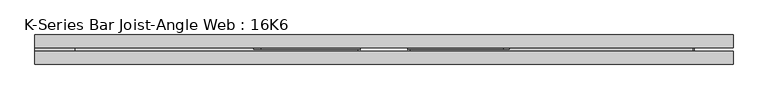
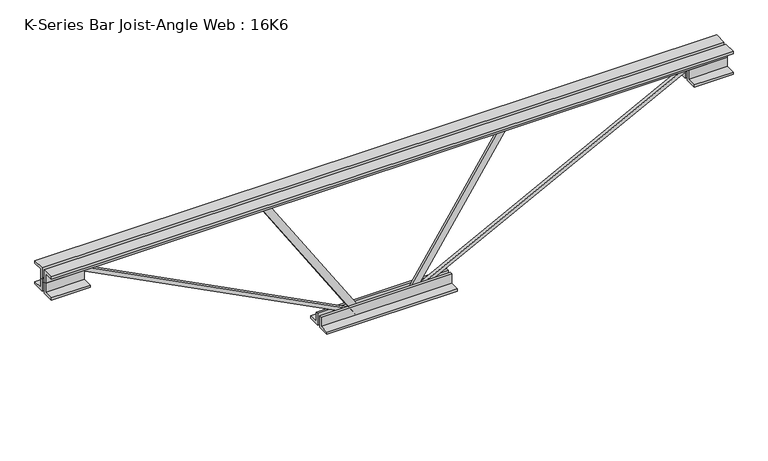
"""IFC4 building model written with IfcOpenShell, lengths in millimetres: beam geometry, K-Series Bar Joist-Angle Web : 16K6."""

import ifcopenshell
import ifcopenshell.guid

model = None  # the IFC model being written
_history = None  # IfcOwnerHistory: only IFC2X3 demands one
_inside = {}  # id of a spatial element -> (the spatial element, [elements in it])
_under = {}  # id of a project, library or spatial element -> (it, [spatial elements below it])
_declared = {}  # id of a project -> (the project, [libraries it declares])
_typed = {}  # id of a type object -> (the type object, [elements of that type])
_made_of = {}  # id of a material, layer set ... -> (it, [elements and type objects made of it])


def new_model(schema):
    """Start an empty IFC model of exactly this schema.

    Asked for "IFC4X3", IfcOpenShell would pick the latest addendum, in which some entities
    have other attributes; the version numbers below select the first issue.
    IFC2X3 requires an IfcOwnerHistory on every rooted entity: one is made here for all.
    """
    global model, _history
    if schema == "IFC4X3":
        model = ifcopenshell.file(schema_version=(4, 3, 0, 0))
    else:
        model = ifcopenshell.file(schema=schema)
    _inside.clear()
    _under.clear()
    _declared.clear()
    _typed.clear()
    _made_of.clear()
    _history = None
    if model.schema == "IFC2X3":
        org = make("IfcOrganization", Name="unknown")
        user = make(
            "IfcPersonAndOrganization",
            ThePerson=make("IfcPerson", FamilyName="unknown"),
            TheOrganization=org,
        )
        app = make(
            "IfcApplication",
            ApplicationDeveloper=org,
            Version="unknown",
            ApplicationFullName="unknown",
            ApplicationIdentifier="unknown",
        )
        _history = make(
            "IfcOwnerHistory",
            OwningUser=user,
            OwningApplication=app,
            ChangeAction="ADDED",
            CreationDate=0,
        )
    return model


def make(cls, **values):
    """One entity of the class cls with the attributes given. An attribute that is None is left unset."""
    return model.create_entity(
        cls, **{name: value for name, value in values.items() if value is not None}
    )


def rooted(cls, **values):
    """An entity with a GlobalId (a new one), such as an element, a storey or a relation."""
    return make(cls, GlobalId=ifcopenshell.guid.new(), OwnerHistory=_history, **values)


def si_unit(unit_type, name, prefix=None):
    """IfcSIUnit, for example si_unit("LENGTHUNIT", "METRE", prefix="MILLI")."""
    return make("IfcSIUnit", UnitType=unit_type, Prefix=prefix, Name=name)


def assignment(units):
    """IfcUnitAssignment: the units of a project."""
    return None if units is None else make("IfcUnitAssignment", Units=units)


def point(xyz):
    """IfcCartesianPoint."""
    return None if xyz is None else make("IfcCartesianPoint", Coordinates=xyz)


def direction(xyz):
    """IfcDirection."""
    return None if xyz is None else make("IfcDirection", DirectionRatios=xyz)


def frame(location, z_axis=None, x_axis=None):
    """IfcAxis2Placement3D, a coordinate frame: its origin and axes. An axis left out is left unset."""
    return make(
        "IfcAxis2Placement3D",
        Location=point(location),
        Axis=direction(z_axis),
        RefDirection=direction(x_axis),
    )


def origin():
    """The frame at (0, 0, 0) with its axes left unset."""
    return frame((0.0, 0.0, 0.0))


def place(relative_to, where):
    """IfcLocalPlacement: puts the frame where relative to a parent placement (None: the world)."""
    return make(
        "IfcLocalPlacement", PlacementRelTo=relative_to, RelativePlacement=where
    )


def context(
    kind, dimensions, precision=None, world=None, true_north=None, identifier=None
):
    """IfcGeometricRepresentationContext, for example the 3D "Model" context."""
    return make(
        "IfcGeometricRepresentationContext",
        ContextIdentifier=identifier,
        ContextType=kind,
        CoordinateSpaceDimension=dimensions,
        Precision=precision,
        WorldCoordinateSystem=world,
        TrueNorth=true_north,
    )


def project(units=None, contexts=None):
    """IfcProject with its units and contexts."""
    return rooted(
        "IfcProject",
        Name="project",
        RepresentationContexts=contexts,
        UnitsInContext=assignment(units),
    )


def spatial(cls, under=None, at=None, **own):
    """A site, building, storey or space (cls), placed at a placement, below another one or the project."""
    s = rooted(cls, ObjectPlacement=at, **own)
    if under is not None:
        _under.setdefault(under.id(), (under, []))[1].append(s)
    return s


def polyline(points):
    """IfcPolyline through the points."""
    return make("IfcPolyline", Points=[point(p) for p in points])


def outline(outer, holes=None, kind="AREA"):
    """IfcArbitraryClosedProfileDef: a profile drawn as a closed curve; with holes, ...WithVoids."""
    if holes is None:
        return make("IfcArbitraryClosedProfileDef", ProfileType=kind, OuterCurve=outer)
    return make(
        "IfcArbitraryProfileDefWithVoids",
        ProfileType=kind,
        OuterCurve=outer,
        InnerCurves=holes,
    )


def extrude(swept, where, along, depth):
    """IfcExtrudedAreaSolid: the profile swept, set in the frame where, extruded along a direction by depth."""
    return make(
        "IfcExtrudedAreaSolid",
        SweptArea=swept,
        Position=where,
        ExtrudedDirection=direction(along),
        Depth=depth,
    )


def shape(context_of_items, identifier, shape_type, items):
    """IfcShapeRepresentation: the items that make up one representation, for example the "Body"."""
    return make(
        "IfcShapeRepresentation",
        ContextOfItems=context_of_items,
        RepresentationIdentifier=identifier,
        RepresentationType=shape_type,
        Items=items,
    )


def source(mapping_origin, context_of_items, identifier, shape_type, items):
    """IfcRepresentationMap: a shape defined once, which mapped items show again and again."""
    return make(
        "IfcRepresentationMap",
        MappingOrigin=mapping_origin,
        MappedRepresentation=shape(context_of_items, identifier, shape_type, items),
    )


def transform(
    local_origin,
    x_axis=None,
    y_axis=None,
    z_axis=None,
    scale=None,
    scale2=None,
    scale3=None,
    uniform=True,
):
    """IfcCartesianTransformationOperator3D, or its non-uniform kind. x_axis, y_axis, z_axis: its Axis1, 2, 3."""
    if uniform:
        return make(
            "IfcCartesianTransformationOperator3D",
            Axis1=direction(x_axis),
            Axis2=direction(y_axis),
            LocalOrigin=point(local_origin),
            Scale=scale,
            Axis3=direction(z_axis),
        )
    return make(
        "IfcCartesianTransformationOperator3DnonUniform",
        Axis1=direction(x_axis),
        Axis2=direction(y_axis),
        LocalOrigin=point(local_origin),
        Scale=scale,
        Axis3=direction(z_axis),
        Scale2=scale2,
        Scale3=scale3,
    )


def mapped(mapping_source, mapping_target):
    """IfcMappedItem: shows the shape of a source again, moved by a transform."""
    return make(
        "IfcMappedItem", MappingSource=mapping_source, MappingTarget=mapping_target
    )


def made_of(thing, what):
    """Note that an element or type object is made of a material, layer set ...; save() writes the relation."""
    if what is not None:
        _made_of.setdefault(what.id(), (what, []))[1].append(thing)
    return thing


def element(
    cls,
    number,
    at=None,
    inside=None,
    cuts=None,
    type_object=None,
    material=None,
    context=None,
    identifier="Body",
    shape_type=None,
    held_by="IfcProductDefinitionShape",
    body=None,
    shapes=None,
    **own,
):
    """One element of the class cls, such as IfcWall. Its Tag is "e" and its number.

    at: its placement. inside: the storey or other place that contains it. cuts: it is an
    opening in that element (IfcRelVoidsElement). A single representation is given by context,
    identifier, shape_type and body (its items); several are given by shapes. held_by: the class
    of the entity that holds the representations. save() writes the other relations.
    """
    e = rooted(cls, Tag="e%d" % number, ObjectPlacement=at, **own)
    if body is not None:
        shapes = [shape(context, identifier, shape_type, body)]
    if shapes is not None:
        e.Representation = make(held_by, Representations=shapes)
    if inside is not None:
        _inside.setdefault(inside.id(), (inside, []))[1].append(e)
    if cuts is not None:
        rooted(
            "IfcRelVoidsElement", RelatingBuildingElement=cuts, RelatedOpeningElement=e
        )
    if type_object is not None:
        _typed.setdefault(type_object.id(), (type_object, []))[1].append(e)
    return made_of(e, material)


def aggregate(whole, parts):
    """IfcRelAggregates: a whole, such as a stair, and the parts it consists of."""
    return rooted("IfcRelAggregates", RelatingObject=whole, RelatedObjects=parts)


def save(model, path):
    """Write the relations noted so far, then the file.

    IfcRelAggregates (storeys below a building ...), IfcRelContainedInSpatialStructure (elements
    in a storey), IfcRelDefinesByType, IfcRelAssociatesMaterial and IfcRelDeclares: one each for
    every whole, place, type object, material and project.
    """
    for whole, parts in _under.values():
        aggregate(whole, parts)
    for where, things in _inside.values():
        rooted(
            "IfcRelContainedInSpatialStructure",
            RelatedElements=things,
            RelatingStructure=where,
        )
    for kind, things in _typed.values():
        rooted("IfcRelDefinesByType", RelatedObjects=things, RelatingType=kind)
    for what, things in _made_of.values():
        rooted("IfcRelAssociatesMaterial", RelatedObjects=things, RelatingMaterial=what)
    for by, libraries in _declared.values():
        rooted("IfcRelDeclares", RelatingContext=by, RelatedDefinitions=libraries)
    model.write(path)


def k_series_bar_joist_angle_web_16k6_d451207b(model_context):
    return source(origin(), model_context, "Body", "SweptSolid", [
        extrude(outline(polyline([(4.75, 203.0), (36.75, 203.0), (36.75, 196.5), (11.25, 196.5), (11.25, 171.0), (4.75, 171.0), (4.75, 203.0)])), frame((-880.5, 0.0, 0.0), z_axis=(1.0, 0.0, 0.0), x_axis=(0.0, 1.0, 0.0)), (0.0, 0.0, 1.0), 1761.0),
        extrude(outline(polyline([(-4.75, 203.0), (-4.75, 171.0), (-11.25, 171.0), (-11.25, 196.5), (-36.75, 196.5), (-36.75, 203.0), (-4.75, 203.0)])), frame((-880.5, 0.0, 0.0), z_axis=(1.0, 0.0, 0.0), x_axis=(0.0, 1.0, 0.0)), (0.0, 0.0, 1.0), 1761.0),
        extrude(outline(polyline([(4.75, -203.0), (4.75, -171.0), (11.25, -171.0), (11.25, -196.5), (36.75, -196.5), (36.75, -203.0), (4.75, -203.0)])), frame((-168.5, 0.0, 0.0), z_axis=(1.0, 0.0, 0.0), x_axis=(0.0, 1.0, 0.0)), (0.0, 0.0, 1.0), 337.0),
        extrude(outline(polyline([(-4.75, -203.0), (-36.75, -203.0), (-36.75, -196.5), (-11.25, -196.5), (-11.25, -171.0), (-4.75, -171.0), (-4.75, -203.0)])), frame((-168.5, 0.0, 0.0), z_axis=(1.0, 0.0, 0.0), x_axis=(0.0, 1.0, 0.0)), (0.0, 0.0, 1.0), 337.0),
        extrude(outline(polyline([(4.75, 139.5), (4.75, 171.0), (11.25, 171.0), (11.25, 146.0), (36.75, 146.0), (36.75, 139.5), (4.75, 139.5)])), frame((780.5, 0.0, 0.0), z_axis=(1.0, 0.0, 0.0), x_axis=(0.0, 1.0, 0.0)), (0.0, 0.0, 1.0), 100.0),
        extrude(outline(polyline([(-4.75, 139.5), (-36.75, 139.5), (-36.75, 146.0), (-11.25, 146.0), (-11.25, 171.0), (-4.75, 171.0), (-4.75, 139.5)])), frame((780.5, 0.0, 0.0), z_axis=(1.0, 0.0, 0.0), x_axis=(0.0, 1.0, 0.0)), (0.0, 0.0, 1.0), 100.0),
        extrude(outline(polyline([(-4.75, 139.5), (-36.75, 139.5), (-36.75, 146.0), (-11.25, 146.0), (-11.25, 171.0), (-4.75, 171.0), (-4.75, 139.5)])), frame((-880.5, 0.0, 0.0), z_axis=(1.0, 0.0, 0.0), x_axis=(0.0, 1.0, 0.0)), (0.0, 0.0, 1.0), 100.0),
        extrude(outline(polyline([(36.75, 139.5), (4.75, 139.5), (4.75, 171.0), (11.25, 171.0), (11.25, 146.0), (36.75, 146.0), (36.75, 139.5)])), frame((-880.5, 0.0, 0.0), z_axis=(1.0, 0.0, 0.0), x_axis=(0.0, 1.0, 0.0)), (0.0, 0.0, 1.0), 100.0),
        extrude(outline(polyline([(193.9566712, -329.1238095), (174.9066712, -329.1238095), (174.9066712, -321.3257319), (-201.5859776, -76.0774614), (-191.1882164, -60.1153481), (193.9566712, -310.9997089), (193.9566712, -329.1238095)])), frame((0.0, 0.0, 0.0), z_axis=(0.0, 1.0, 0.0), x_axis=(0.0, 0.0, 1.0)), (0.0, 0.0, 1.0), 4.7625),
        extrude(outline(polyline([(-4.7625, -10.5646147), (-4.7625, 8.4853854), (0.0, 8.4853854), (0.0, -10.5646147), (-4.7625, -10.5646147)])), frame((68.5, 0.0, -196.65), z_axis=(0.5476958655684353, 0.0, 0.836677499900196), x_axis=(0.0, -1.0, 0.0)), (0.0, 0.0, 1.0), 439.4166212),
        extrude(outline(polyline([(-200.8705467, -70.6793315), (-192.4294533, -66.3206685), (175.75, -779.3460208), (175.75, -880.5), (166.25, -880.5), (166.25, -781.6539792), (-200.8705467, -70.6793315)])), frame((0.0, -4.75, 0.0), z_axis=(0.0, 1.0, 0.0), x_axis=(0.0, 0.0, 1.0)), (0.0, 0.0, 1.0), 9.5),
        extrude(outline(polyline([(0.0, -9.5), (0.0, 0.0), (801.3179909, 0.0), (801.3179909, -9.5), (0.0, -9.5)])), frame((782.6793315, -4.75, 166.7794533), z_axis=(-0.4588066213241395, 0.0, 0.888536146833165), x_axis=(-0.888536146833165, 0.0, -0.4588066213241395)), (0.0, 0.0, 1.0), 9.5),
    ])


if __name__ == "__main__":
    model = new_model("IFC4")
    model_context = context("Model", 3, world=origin())
    ifc_project = project(units=[si_unit("LENGTHUNIT", "METRE", prefix="MILLI")], contexts=[model_context])
    site = spatial("IfcSite", under=ifc_project)
    building = spatial("IfcBuilding", under=site)
    placement = place(None, origin())
    k_series_bar_joist_angle_web_16k6_shape = k_series_bar_joist_angle_web_16k6_d451207b(model_context)
    element("IfcBeam", 1, ObjectType="K-Series Bar Joist-Angle Web : 16K6", at=placement, inside=building, context=model_context, shape_type="MappedRepresentation", body=[
        mapped(k_series_bar_joist_angle_web_16k6_shape, transform((0.0, 0.0, 0.0), x_axis=(1.0, 0.0, 0.0), y_axis=(0.0, 1.0, 0.0), z_axis=(0.0, 0.0, 1.0))),
    ])
    save(model, "model.ifc")
